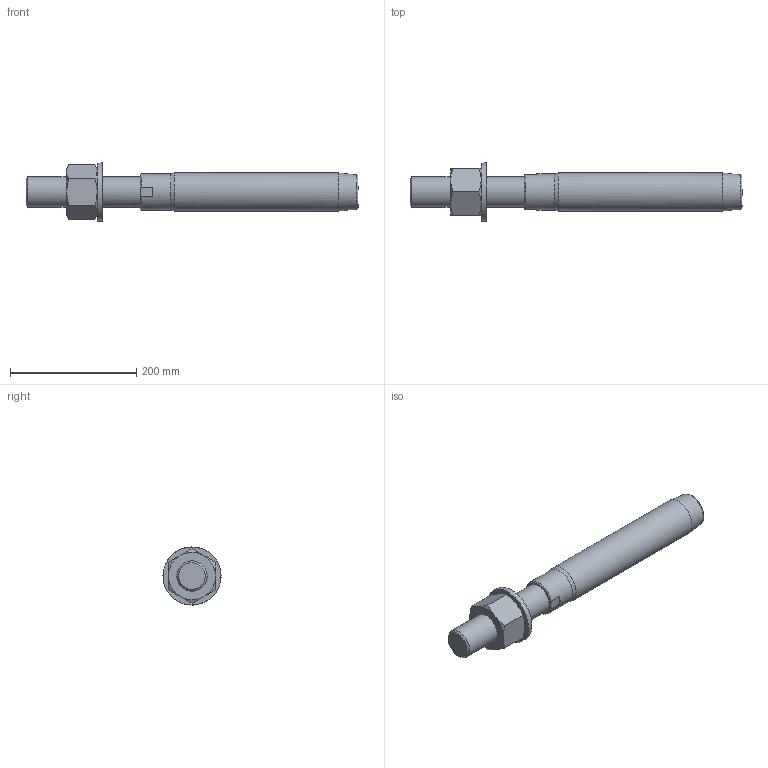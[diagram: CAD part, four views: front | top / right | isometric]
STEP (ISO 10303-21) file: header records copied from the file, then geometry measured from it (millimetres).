
FILE_DESCRIPTION(/* description */ (''),/* implementation_level */ '2;1');
FILE_NAME(/* name */ 'FLT 32_42CrMo4',/* time_stamp */ '2023-05-23T15:57:53+02:00',/* author */ (''),/* organization */ (''),/* preprocessor_version */ 'ST-DEVELOPER v16.5',/* originating_system */ 'Rhino 7.22',/* authorisation */ '');
FILE_SCHEMA (('CONFIG_CONTROL_DESIGN'));
Length unit declared in the file: millimetre
Products named in the file (1): Document
Bounding box: 526 x 91.99 x 91.97 mm (x, y, z)
Volume: 1487088 mm3; surface area: 134475.4 mm2
Topology: 3 solids, 3 shells, 42 faces, 103 edges, 68 vertices
Faces by surface type: bspline 19, plane 17, cylinder 6
Full cylindrical faces by diameter (mm): 44.752 x1, 48 x1, 50 x1, 57.2 x1, 60.5 x1, 92 x1
Entity records: 1563 total; most frequent: CARTESIAN_POINT 861, ORIENTED_EDGE 206, EDGE_CURVE 103, VERTEX_POINT 68, EDGE_LOOP 47, ADVANCED_FACE 42, FACE_OUTER_BOUND 42, DIRECTION 27
